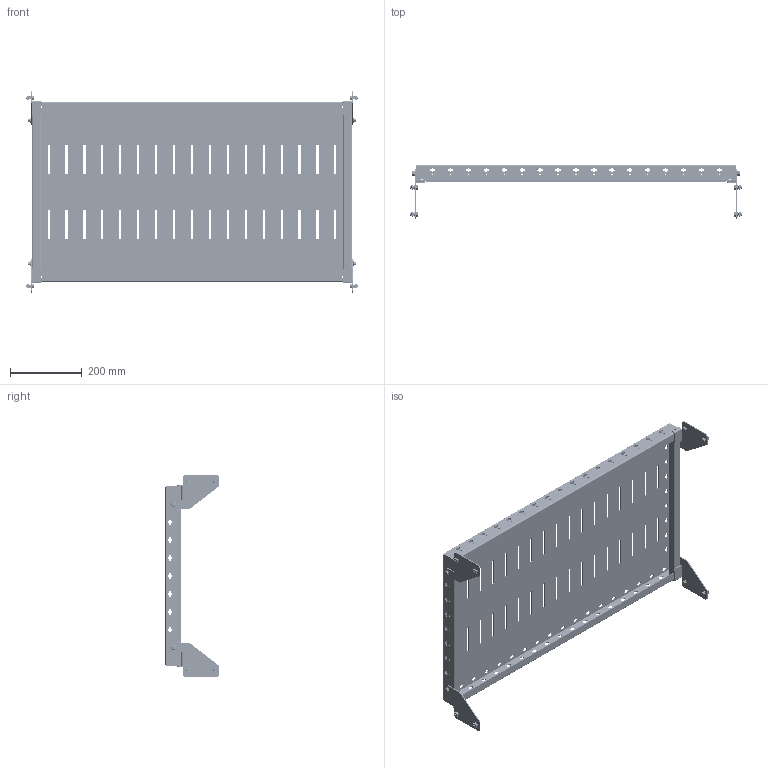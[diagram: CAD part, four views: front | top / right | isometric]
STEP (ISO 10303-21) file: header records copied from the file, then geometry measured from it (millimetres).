
FILE_DESCRIPTION (( 'STEP AP203' ), '1' );
FILE_NAME ('R5RFE106.STEP', '2022-06-29T08:36:08', ( '' ), ( '' ), 'SwSTEP 2.0', 'SolidWorks 2020', '' );
FILE_SCHEMA (( 'CONFIG_CONTROL_DESIGN' ));
Length unit declared in the file: millimetre
Products named in the file (7): M6x16 DIN 6921 cl.8,8 Zinc_thread; Ì6 D87181 Zinc_In a tightened position (1.5 mm); RB.1704.00.00.0_-00; M6 A3400002 Zinc_thread; R5RFE106; RB.2364.00.00.0_09; RB.1704.00.00.0_- 01
Assembly tree (29 placements, depth 2):
  R5RFE106
    RB.2364.00.00.0_09
    RB.1704.00.00.0_- 01  x2
    M6 A3400002 Zinc_thread  x8
    M6x16 DIN 6921 cl.8,8 Zinc_thread  x12
    RB.1704.00.00.0_-00  x2
    Ì6 D87181 Zinc_In a tightened position (1.5 mm)  x4
Bounding box: 926 x 148.6 x 565 mm (x, y, z)
Volume: 1356278.3 mm3; surface area: 1359920.7 mm2
Topology: 29 solids, 29 shells, 5546 faces, 15352 edges, 9812 vertices
Faces by surface type: cylinder 2316, plane 1842, cone 1076, bspline 216, torus 96
Entity records: 91810 total; most frequent: CARTESIAN_POINT 18073, DIRECTION 15567, ORIENTED_EDGE 15260, EDGE_CURVE 7630, AXIS2_PLACEMENT_3D 5571, VERTEX_POINT 4999, LINE 4425, VECTOR 4425
